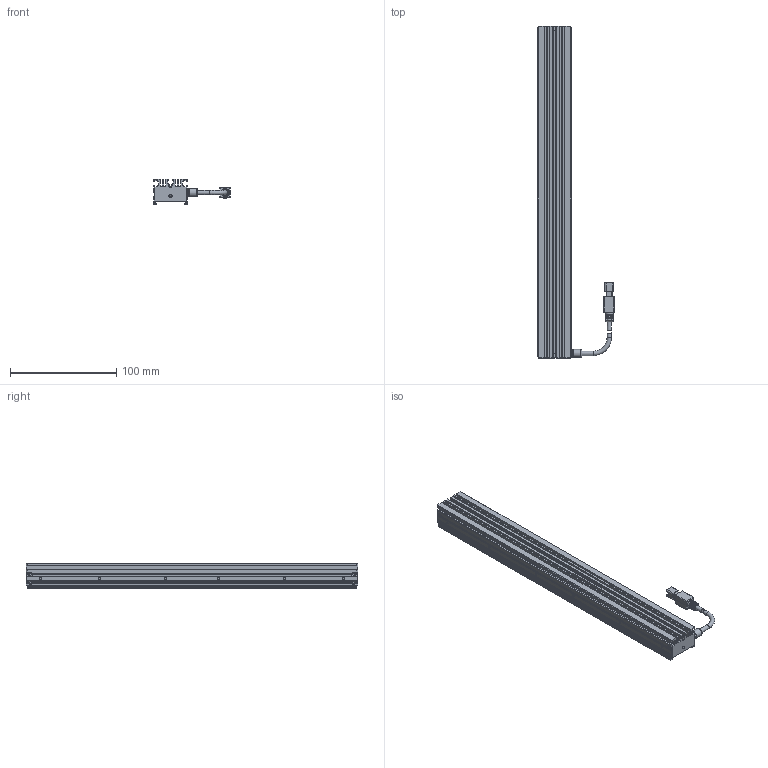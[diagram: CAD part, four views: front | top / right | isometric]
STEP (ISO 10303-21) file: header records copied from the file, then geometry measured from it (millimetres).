
FILE_DESCRIPTION (( 'STEP AP203' ), '1' );
FILE_NAME ('OPT-ILI31332-IR-V1.0尨砩芞.STEP', '2025-01-18T08:22:29', ( '' ), ( '' ), 'SwSTEP 2.0', 'SolidWorks 2016', '' );
FILE_SCHEMA (( 'CONFIG_CONTROL_DESIGN' ));
Length unit declared in the file: millimetre
Products named in the file (1): OPT-ILI31332-IR-V1.0尨砩芞
Bounding box: 72.6 x 313 x 24 mm (x, y, z)
Volume: 172199.5 mm3; surface area: 77725.2 mm2
Topology: 5 solids, 13 shells, 599 faces, 1550 edges, 993 vertices
Faces by surface type: plane 404, cylinder 138, cone 28, bspline 20, torus 9
Full cylindrical faces by diameter (mm): 1.1 x2, 1.4 x2, 1.6 x7, 2 x19, 2.4 x7, 2.5 x2, 3 x2, 3.5 x1, 4.1 x3, 7.5 x2, 8 x1
Entity records: 18298 total; most frequent: CARTESIAN_POINT 4203, ORIENTED_EDGE 2888, DIRECTION 2793, EDGE_CURVE 1444, LINE 983, VECTOR 983, VERTEX_POINT 965, AXIS2_PLACEMENT_3D 905
